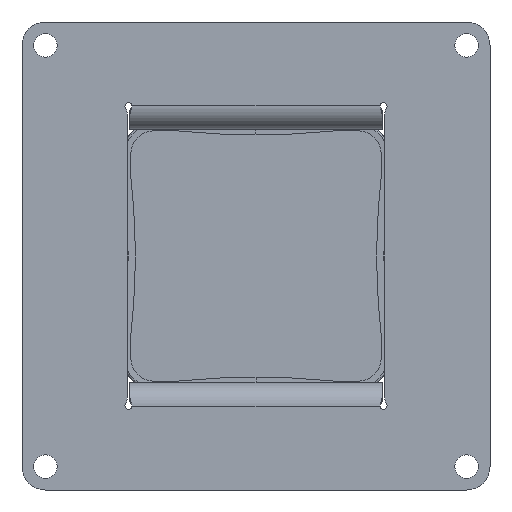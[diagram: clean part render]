
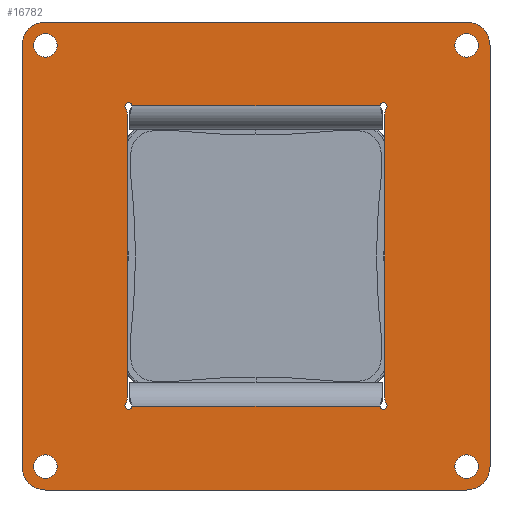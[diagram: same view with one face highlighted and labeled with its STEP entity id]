
A CAD part, front view. The second image highlights one B-rep face of the part: STEP entity #16782.
In plain terms, the highlighted planar face has unit normal (0, -1, 0).
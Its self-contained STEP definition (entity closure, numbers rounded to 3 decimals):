
#15448=DIRECTION('',(1.,0.,0.));
#15449=VECTOR('',#15448,106.042);
#15450=CARTESIAN_POINT('',(-53.021,0.,-64.25));
#15451=LINE('',#15450,#15449);
#15452=CARTESIAN_POINT('',(54.5,0.,-64.));
#15453=DIRECTION('',(0.,-1.,0.));
#15454=DIRECTION('',(-0.986,0.,-0.167));
#15455=AXIS2_PLACEMENT_3D('',#15452,#15453,#15454);
#15457=CARTESIAN_POINT('',(60.,0.,-60.536));
#15458=DIRECTION('',(0.,-1.,0.));
#15459=DIRECTION('',(-1.,0.,0.));
#15460=AXIS2_PLACEMENT_3D('',#15457,#15458,#15459);
#15462=DIRECTION('',(0.,0.,-1.));
#15463=VECTOR('',#15462,60.536);
#15464=CARTESIAN_POINT('',(55.,0.,0.));
#15465=LINE('',#15464,#15463);
#15466=DIRECTION('',(0.,0.,1.));
#15467=VECTOR('',#15466,60.536);
#15468=CARTESIAN_POINT('',(55.,0.,0.));
#15469=LINE('',#15468,#15467);
#15470=CARTESIAN_POINT('',(60.,0.,60.536));
#15471=DIRECTION('',(0.,1.,0.));
#15472=DIRECTION('',(-1.,0.,0.));
#15473=AXIS2_PLACEMENT_3D('',#15470,#15471,#15472);
#15475=CARTESIAN_POINT('',(54.5,0.,64.));
#15476=DIRECTION('',(0.,1.,0.));
#15477=DIRECTION('',(-0.986,0.,0.167));
#15478=AXIS2_PLACEMENT_3D('',#15475,#15476,#15477);
#15480=DIRECTION('',(1.,0.,0.));
#15481=VECTOR('',#15480,106.042);
#15482=CARTESIAN_POINT('',(-53.021,0.,64.25));
#15483=LINE('',#15482,#15481);
#15484=CARTESIAN_POINT('',(-54.5,0.,64.));
#15485=DIRECTION('',(0.,-1.,0.));
#15486=DIRECTION('',(0.986,0.,0.167));
#15487=AXIS2_PLACEMENT_3D('',#15484,#15485,#15486);
#15489=CARTESIAN_POINT('',(-60.,0.,60.536));
#15490=DIRECTION('',(0.,-1.,0.));
#15491=DIRECTION('',(1.,0.,0.));
#15492=AXIS2_PLACEMENT_3D('',#15489,#15490,#15491);
#15494=DIRECTION('',(0.,0.,1.));
#15495=VECTOR('',#15494,60.536);
#15496=CARTESIAN_POINT('',(-55.,0.,0.));
#15497=LINE('',#15496,#15495);
#15498=DIRECTION('',(0.,0.,-1.));
#15499=VECTOR('',#15498,60.536);
#15500=CARTESIAN_POINT('',(-55.,0.,0.));
#15501=LINE('',#15500,#15499);
#15502=CARTESIAN_POINT('',(-60.,0.,-60.536));
#15503=DIRECTION('',(0.,1.,0.));
#15504=DIRECTION('',(1.,0.,0.));
#15505=AXIS2_PLACEMENT_3D('',#15502,#15503,#15504);
#15507=CARTESIAN_POINT('',(-54.5,0.,-64.));
#15508=DIRECTION('',(0.,1.,0.));
#15509=DIRECTION('',(0.986,0.,-0.167));
#15510=AXIS2_PLACEMENT_3D('',#15507,#15508,#15509);
#15512=CARTESIAN_POINT('',(90.,0.,90.));
#15513=DIRECTION('',(0.,-1.,0.));
#15514=DIRECTION('',(1.,0.,0.));
#15515=AXIS2_PLACEMENT_3D('',#15512,#15513,#15514);
#15517=CARTESIAN_POINT('',(90.,0.,90.));
#15518=DIRECTION('',(0.,-1.,0.));
#15519=DIRECTION('',(-1.,0.,0.));
#15520=AXIS2_PLACEMENT_3D('',#15517,#15518,#15519);
#15522=CARTESIAN_POINT('',(-90.,0.,90.));
#15523=DIRECTION('',(0.,-1.,0.));
#15524=DIRECTION('',(1.,0.,0.));
#15525=AXIS2_PLACEMENT_3D('',#15522,#15523,#15524);
#15527=CARTESIAN_POINT('',(-90.,0.,90.));
#15528=DIRECTION('',(0.,-1.,0.));
#15529=DIRECTION('',(-1.,0.,0.));
#15530=AXIS2_PLACEMENT_3D('',#15527,#15528,#15529);
#15532=CARTESIAN_POINT('',(90.,0.,-90.));
#15533=DIRECTION('',(0.,-1.,0.));
#15534=DIRECTION('',(1.,0.,0.));
#15535=AXIS2_PLACEMENT_3D('',#15532,#15533,#15534);
#15537=CARTESIAN_POINT('',(90.,0.,-90.));
#15538=DIRECTION('',(0.,-1.,0.));
#15539=DIRECTION('',(-1.,0.,0.));
#15540=AXIS2_PLACEMENT_3D('',#15537,#15538,#15539);
#15542=CARTESIAN_POINT('',(-90.,0.,-90.));
#15543=DIRECTION('',(0.,-1.,0.));
#15544=DIRECTION('',(1.,0.,0.));
#15545=AXIS2_PLACEMENT_3D('',#15542,#15543,#15544);
#15547=CARTESIAN_POINT('',(-90.,0.,-90.));
#15548=DIRECTION('',(0.,-1.,0.));
#15549=DIRECTION('',(-1.,0.,0.));
#15550=AXIS2_PLACEMENT_3D('',#15547,#15548,#15549);
#15552=CARTESIAN_POINT('',(-90.,0.,90.));
#15553=DIRECTION('',(0.,-1.,0.));
#15554=DIRECTION('',(0.,0.,1.));
#15555=AXIS2_PLACEMENT_3D('',#15552,#15553,#15554);
#15557=DIRECTION('',(1.,0.,0.));
#15558=VECTOR('',#15557,180.);
#15559=CARTESIAN_POINT('',(-90.,0.,100.));
#15560=LINE('',#15559,#15558);
#15561=CARTESIAN_POINT('',(90.,0.,90.));
#15562=DIRECTION('',(0.,-1.,0.));
#15563=DIRECTION('',(1.,0.,0.));
#15564=AXIS2_PLACEMENT_3D('',#15561,#15562,#15563);
#15566=DIRECTION('',(0.,0.,-1.));
#15567=VECTOR('',#15566,180.);
#15568=CARTESIAN_POINT('',(100.,0.,90.));
#15569=LINE('',#15568,#15567);
#15570=CARTESIAN_POINT('',(90.,0.,-90.));
#15571=DIRECTION('',(0.,-1.,0.));
#15572=DIRECTION('',(0.,0.,-1.));
#15573=AXIS2_PLACEMENT_3D('',#15570,#15571,#15572);
#15575=DIRECTION('',(-1.,0.,0.));
#15576=VECTOR('',#15575,180.);
#15577=CARTESIAN_POINT('',(90.,0.,-100.));
#15578=LINE('',#15577,#15576);
#15579=CARTESIAN_POINT('',(-90.,0.,-90.));
#15580=DIRECTION('',(0.,-1.,0.));
#15581=DIRECTION('',(-1.,0.,0.));
#15582=AXIS2_PLACEMENT_3D('',#15579,#15580,#15581);
#15584=DIRECTION('',(0.,0.,1.));
#15585=VECTOR('',#15584,180.);
#15586=CARTESIAN_POINT('',(-100.,0.,-90.));
#15587=LINE('',#15586,#15585);
#16440=CARTESIAN_POINT('',(-55.,0.,-60.536));
#16441=CARTESIAN_POINT('',(-55.769,0.,-63.201));
#16442=VERTEX_POINT('',#16440);
#16443=VERTEX_POINT('',#16441);
#16456=CARTESIAN_POINT('',(55.,0.,-60.536));
#16457=CARTESIAN_POINT('',(55.769,0.,-63.201));
#16458=VERTEX_POINT('',#16456);
#16459=VERTEX_POINT('',#16457);
#16468=CARTESIAN_POINT('',(-55.,0.,0.));
#16469=CARTESIAN_POINT('',(-55.,0.,60.536));
#16470=VERTEX_POINT('',#16468);
#16471=VERTEX_POINT('',#16469);
#16472=CARTESIAN_POINT('',(-55.769,0.,63.201));
#16473=VERTEX_POINT('',#16472);
#16480=CARTESIAN_POINT('',(55.,0.,0.));
#16481=CARTESIAN_POINT('',(55.,0.,60.536));
#16482=VERTEX_POINT('',#16480);
#16483=VERTEX_POINT('',#16481);
#16484=CARTESIAN_POINT('',(55.769,0.,63.201));
#16485=VERTEX_POINT('',#16484);
#16532=CARTESIAN_POINT('',(-53.021,0.,64.25));
#16533=CARTESIAN_POINT('',(53.021,0.,64.25));
#16534=VERTEX_POINT('',#16532);
#16535=VERTEX_POINT('',#16533);
#16549=CARTESIAN_POINT('',(-53.021,0.,-64.25));
#16550=VERTEX_POINT('',#16549);
#16553=CARTESIAN_POINT('',(53.021,0.,-64.25));
#16554=VERTEX_POINT('',#16553);
#16641=CARTESIAN_POINT('',(95.,0.,90.));
#16642=CARTESIAN_POINT('',(85.,0.,90.));
#16643=VERTEX_POINT('',#16641);
#16644=VERTEX_POINT('',#16642);
#16649=CARTESIAN_POINT('',(-85.,0.,90.));
#16650=CARTESIAN_POINT('',(-95.,0.,90.));
#16651=VERTEX_POINT('',#16649);
#16652=VERTEX_POINT('',#16650);
#16657=CARTESIAN_POINT('',(95.,0.,-90.));
#16658=CARTESIAN_POINT('',(85.,0.,-90.));
#16659=VERTEX_POINT('',#16657);
#16660=VERTEX_POINT('',#16658);
#16665=CARTESIAN_POINT('',(-85.,0.,-90.));
#16666=CARTESIAN_POINT('',(-95.,0.,-90.));
#16667=VERTEX_POINT('',#16665);
#16668=VERTEX_POINT('',#16666);
#16673=CARTESIAN_POINT('',(-90.,0.,100.));
#16674=CARTESIAN_POINT('',(-100.,0.,90.));
#16675=VERTEX_POINT('',#16673);
#16676=VERTEX_POINT('',#16674);
#16681=CARTESIAN_POINT('',(100.,0.,90.));
#16682=CARTESIAN_POINT('',(90.,0.,100.));
#16683=VERTEX_POINT('',#16681);
#16684=VERTEX_POINT('',#16682);
#16689=CARTESIAN_POINT('',(90.,0.,-100.));
#16690=CARTESIAN_POINT('',(100.,0.,-90.));
#16691=VERTEX_POINT('',#16689);
#16692=VERTEX_POINT('',#16690);
#16697=CARTESIAN_POINT('',(-100.,0.,-90.));
#16698=CARTESIAN_POINT('',(-90.,0.,-100.));
#16699=VERTEX_POINT('',#16697);
#16700=VERTEX_POINT('',#16698);
#16705=CARTESIAN_POINT('',(0.,0.,0.));
#16706=DIRECTION('',(0.,1.,0.));
#16707=DIRECTION('',(1.,0.,0.));
#16708=AXIS2_PLACEMENT_3D('',#16705,#16706,#16707);
#16709=PLANE('',#16708);
#16711=ORIENTED_EDGE('',*,*,#16710,.F.);
#16713=ORIENTED_EDGE('',*,*,#16712,.T.);
#16715=ORIENTED_EDGE('',*,*,#16714,.F.);
#16717=ORIENTED_EDGE('',*,*,#16716,.T.);
#16719=ORIENTED_EDGE('',*,*,#16718,.F.);
#16721=ORIENTED_EDGE('',*,*,#16720,.T.);
#16723=ORIENTED_EDGE('',*,*,#16722,.F.);
#16725=ORIENTED_EDGE('',*,*,#16724,.T.);
#16726=EDGE_LOOP('',(#16711,#16713,#16715,#16717,#16719,#16721,#16723,#16725));
#16727=FACE_OUTER_BOUND('',#16726,.F.);
#16729=ORIENTED_EDGE('',*,*,#16728,.T.);
#16731=ORIENTED_EDGE('',*,*,#16730,.T.);
#16732=EDGE_LOOP('',(#16729,#16731));
#16733=FACE_BOUND('',#16732,.F.);
#16735=ORIENTED_EDGE('',*,*,#16734,.T.);
#16737=ORIENTED_EDGE('',*,*,#16736,.T.);
#16738=EDGE_LOOP('',(#16735,#16737));
#16739=FACE_BOUND('',#16738,.F.);
#16741=ORIENTED_EDGE('',*,*,#16740,.T.);
#16743=ORIENTED_EDGE('',*,*,#16742,.T.);
#16744=EDGE_LOOP('',(#16741,#16743));
#16745=FACE_BOUND('',#16744,.F.);
#16747=ORIENTED_EDGE('',*,*,#16746,.T.);
#16749=ORIENTED_EDGE('',*,*,#16748,.T.);
#16750=EDGE_LOOP('',(#16747,#16749));
#16751=FACE_BOUND('',#16750,.F.);
#16753=ORIENTED_EDGE('',*,*,#16752,.T.);
#16755=ORIENTED_EDGE('',*,*,#16754,.T.);
#16757=ORIENTED_EDGE('',*,*,#16756,.F.);
#16759=ORIENTED_EDGE('',*,*,#16758,.F.);
#16761=ORIENTED_EDGE('',*,*,#16760,.T.);
#16763=ORIENTED_EDGE('',*,*,#16762,.T.);
#16765=ORIENTED_EDGE('',*,*,#16764,.F.);
#16767=ORIENTED_EDGE('',*,*,#16766,.F.);
#16769=ORIENTED_EDGE('',*,*,#16768,.T.);
#16771=ORIENTED_EDGE('',*,*,#16770,.F.);
#16773=ORIENTED_EDGE('',*,*,#16772,.F.);
#16775=ORIENTED_EDGE('',*,*,#16774,.T.);
#16777=ORIENTED_EDGE('',*,*,#16776,.T.);
#16779=ORIENTED_EDGE('',*,*,#16778,.F.);
#16780=EDGE_LOOP('',(#16753,#16755,#16757,#16759,#16761,#16763,#16765,#16767,
#16769,#16771,#16773,#16775,#16777,#16779));
#16781=FACE_BOUND('',#16780,.F.);
#15456=CIRCLE('',#15455,1.5);
#15461=CIRCLE('',#15460,5.);
#15474=CIRCLE('',#15473,5.);
#15479=CIRCLE('',#15478,1.5);
#15488=CIRCLE('',#15487,1.5);
#15493=CIRCLE('',#15492,5.);
#15506=CIRCLE('',#15505,5.);
#15511=CIRCLE('',#15510,1.5);
#15516=CIRCLE('',#15515,5.);
#15521=CIRCLE('',#15520,5.);
#15526=CIRCLE('',#15525,5.);
#15531=CIRCLE('',#15530,5.);
#15536=CIRCLE('',#15535,5.);
#15541=CIRCLE('',#15540,5.);
#15546=CIRCLE('',#15545,5.);
#15551=CIRCLE('',#15550,5.);
#15556=CIRCLE('',#15555,10.);
#15565=CIRCLE('',#15564,10.);
#15574=CIRCLE('',#15573,10.);
#15583=CIRCLE('',#15582,10.);
#16710=EDGE_CURVE('',#16675,#16676,#15556,.T.);
#16712=EDGE_CURVE('',#16675,#16684,#15560,.T.);
#16714=EDGE_CURVE('',#16683,#16684,#15565,.T.);
#16716=EDGE_CURVE('',#16683,#16692,#15569,.T.);
#16718=EDGE_CURVE('',#16691,#16692,#15574,.T.);
#16720=EDGE_CURVE('',#16691,#16700,#15578,.T.);
#16722=EDGE_CURVE('',#16699,#16700,#15583,.T.);
#16724=EDGE_CURVE('',#16699,#16676,#15587,.T.);
#16728=EDGE_CURVE('',#16643,#16644,#15516,.T.);
#16730=EDGE_CURVE('',#16644,#16643,#15521,.T.);
#16734=EDGE_CURVE('',#16651,#16652,#15526,.T.);
#16736=EDGE_CURVE('',#16652,#16651,#15531,.T.);
#16740=EDGE_CURVE('',#16659,#16660,#15536,.T.);
#16742=EDGE_CURVE('',#16660,#16659,#15541,.T.);
#16746=EDGE_CURVE('',#16667,#16668,#15546,.T.);
#16748=EDGE_CURVE('',#16668,#16667,#15551,.T.);
#16752=EDGE_CURVE('',#16550,#16554,#15451,.T.);
#16754=EDGE_CURVE('',#16554,#16459,#15456,.T.);
#16756=EDGE_CURVE('',#16458,#16459,#15461,.T.);
#16758=EDGE_CURVE('',#16482,#16458,#15465,.T.);
#16760=EDGE_CURVE('',#16482,#16483,#15469,.T.);
#16762=EDGE_CURVE('',#16483,#16485,#15474,.T.);
#16764=EDGE_CURVE('',#16535,#16485,#15479,.T.);
#16766=EDGE_CURVE('',#16534,#16535,#15483,.T.);
#16768=EDGE_CURVE('',#16534,#16473,#15488,.T.);
#16770=EDGE_CURVE('',#16471,#16473,#15493,.T.);
#16772=EDGE_CURVE('',#16470,#16471,#15497,.T.);
#16774=EDGE_CURVE('',#16470,#16442,#15501,.T.);
#16776=EDGE_CURVE('',#16442,#16443,#15506,.T.);
#16778=EDGE_CURVE('',#16550,#16443,#15511,.T.);
#16782=ADVANCED_FACE('',(#16727,#16733,#16739,#16745,#16751,#16781),#16709,.F.);
